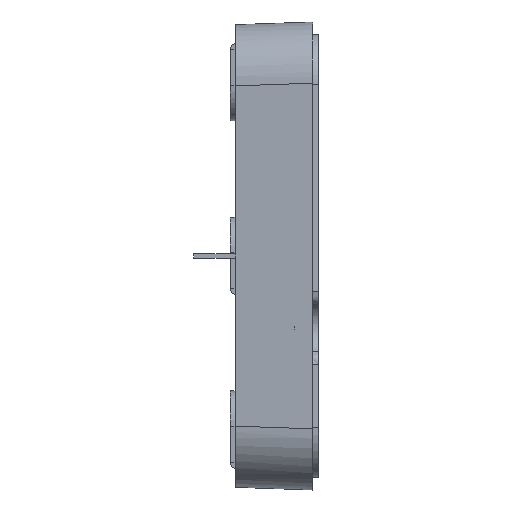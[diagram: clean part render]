
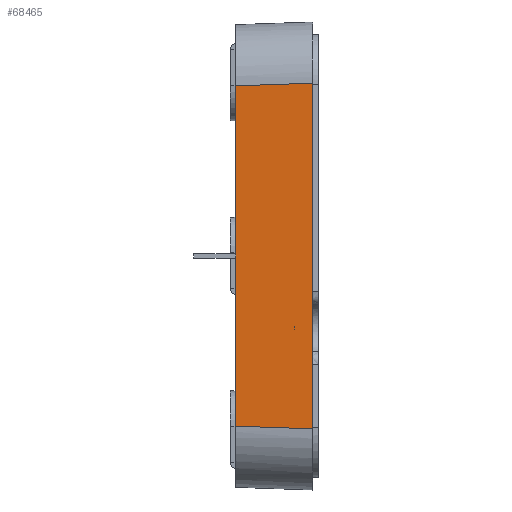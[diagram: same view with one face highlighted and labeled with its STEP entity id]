
A CAD part, left-side view. The second image highlights one B-rep face of the part: STEP entity #68465.
In plain terms, the highlighted planar face has unit normal (-0.999, 0.035, 0).
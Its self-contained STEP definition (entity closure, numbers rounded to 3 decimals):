
#3464 = VERTEX_POINT ( 'NONE', #70507 ) ;
#3783 = DIRECTION ( 'NONE',  ( 0., 0., 1. ) ) ;
#8902 = EDGE_CURVE ( 'NONE', #77455, #28503, #65058, .T. ) ;
#16085 = DIRECTION ( 'NONE',  ( 0., 0., 1. ) ) ;
#17234 = CARTESIAN_POINT ( 'NONE',  ( -9.781, 54.037, 52.081 ) ) ;
#21356 = CARTESIAN_POINT ( 'NONE',  ( -10.165, 43.041, 60.565 ) ) ;
#28503 = VERTEX_POINT ( 'NONE', #40133 ) ;
#30051 = VECTOR ( 'NONE', #58844, 1000. ) ;
#32172 = CARTESIAN_POINT ( 'NONE',  ( -10.155, 43.337, 52.081 ) ) ;
#33403 = CARTESIAN_POINT ( 'NONE',  ( -10.155, 43.337, 52.081 ) ) ;
#34858 = VERTEX_POINT ( 'NONE', #56277 ) ;
#38517 = CARTESIAN_POINT ( 'NONE',  ( -10.086, 45.305, 108.517 ) ) ;
#40133 = CARTESIAN_POINT ( 'NONE',  ( -10.155, 43.337, 60.575 ) ) ;
#41504 = VECTOR ( 'NONE', #76052, 1000. ) ;
#46470 = ORIENTED_EDGE ( 'NONE', *, *, #83547, .T. ) ;
#46845 = CARTESIAN_POINT ( 'NONE',  ( -9.781, 54.037, 60.949 ) ) ;
#48398 = EDGE_CURVE ( 'NONE', #77455, #34858, #85608, .T. ) ;
#48677 = VECTOR ( 'NONE', #3783, 1000. ) ;
#54027 = PLANE ( 'NONE',  #86599 ) ;
#56195 = LINE ( 'NONE', #32172, #48677 ) ;
#56277 = CARTESIAN_POINT ( 'NONE',  ( -9.781, 54.037, 108.212 ) ) ;
#56441 = ORIENTED_EDGE ( 'NONE', *, *, #80719, .T. ) ;
#58844 = DIRECTION ( 'NONE',  ( 0.035, 0.999, -0.035 ) ) ;
#63039 = EDGE_LOOP ( 'NONE', ( #63733, #46470, #56441, #66763 ) ) ;
#63733 = ORIENTED_EDGE ( 'NONE', *, *, #8902, .T. ) ;
#65058 = LINE ( 'NONE', #21356, #41504 ) ;
#66763 = ORIENTED_EDGE ( 'NONE', *, *, #48398, .F. ) ;
#67818 = DIRECTION ( 'NONE',  ( -0.999, 0.035, 0. ) ) ;
#68465 = ADVANCED_FACE ( 'NONE', ( #78967 ), #54027, .T. ) ;
#69536 = VECTOR ( 'NONE', #16085, 1000. ) ;
#70507 = CARTESIAN_POINT ( 'NONE',  ( -10.155, 43.337, 108.586 ) ) ;
#70715 = LINE ( 'NONE', #38517, #30051 ) ;
#74674 = DIRECTION ( 'NONE',  ( -0.035, -0.999, 0. ) ) ;
#76052 = DIRECTION ( 'NONE',  ( -0.035, -0.999, -0.035 ) ) ;
#77455 = VERTEX_POINT ( 'NONE', #46845 ) ;
#78967 = FACE_OUTER_BOUND ( 'NONE', #63039, .T. ) ;
#80719 = EDGE_CURVE ( 'NONE', #3464, #34858, #70715, .T. ) ;
#83547 = EDGE_CURVE ( 'NONE', #28503, #3464, #56195, .T. ) ;
#85608 = LINE ( 'NONE', #17234, #69536 ) ;
#86599 = AXIS2_PLACEMENT_3D ( 'NONE', #33403, #67818, #74674 ) ;
